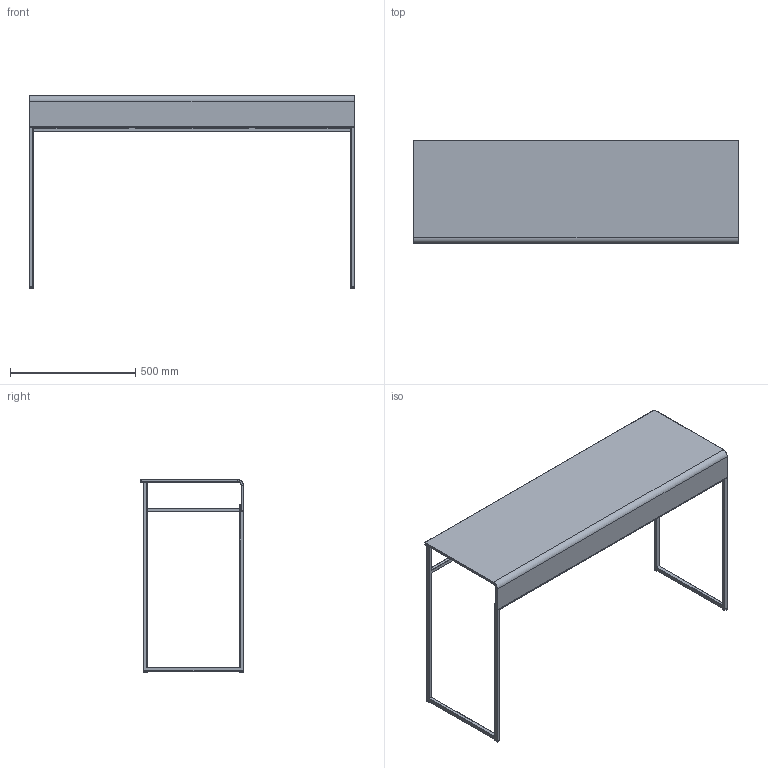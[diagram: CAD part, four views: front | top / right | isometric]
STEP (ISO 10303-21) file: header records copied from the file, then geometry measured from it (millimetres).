
FILE_DESCRIPTION((''),'2;1');
FILE_NAME('C:\AutodeskVault\AreaLavoro\Progetti\SoVeT Italia\4. Complementi_Accessorizes\Nido console\Web file\Nido console\P5090.stp','2012-10-02T17:24:12',('Gianluca'),('So.Ve.T. s.r.l.'),'Autodesk Inventor 2013','Autodesk Inventor 2013','IL PROGETTO E'' DI ESCLUSIVA PROPRIETA'' DELLA SO.VE.T. srl. E'' VIETATA OGNI RIPRODUZIONE TOTALE O PARZIALE E QUALSIASI UTILIZZO NON AUTORIZZATO.');
FILE_SCHEMA(('AUTOMOTIVE_DESIGN { 1 0 10303 214 1 1 1 1 }'));
Length unit declared in the file: millimetre
Products named in the file (1): P5090 Contorno semplificato
Bounding box: 1300 x 412 x 771 mm (x, y, z)
Volume: 8740593.6 mm3; surface area: 1895634 mm2
Topology: 1 solids, 1 shells, 244 faces, 602 edges, 350 vertices
Faces by surface type: plane 108, cylinder 108, cone 12, sphere 10, torus 4, bspline 2
Entity records: 7549 total; most frequent: CARTESIAN_POINT 1393, DIRECTION 1270, ORIENTED_EDGE 1200, EDGE_CURVE 600, AXIS2_PLACEMENT_3D 435, VECTOR 400, LINE 400, VERTEX_POINT 350
